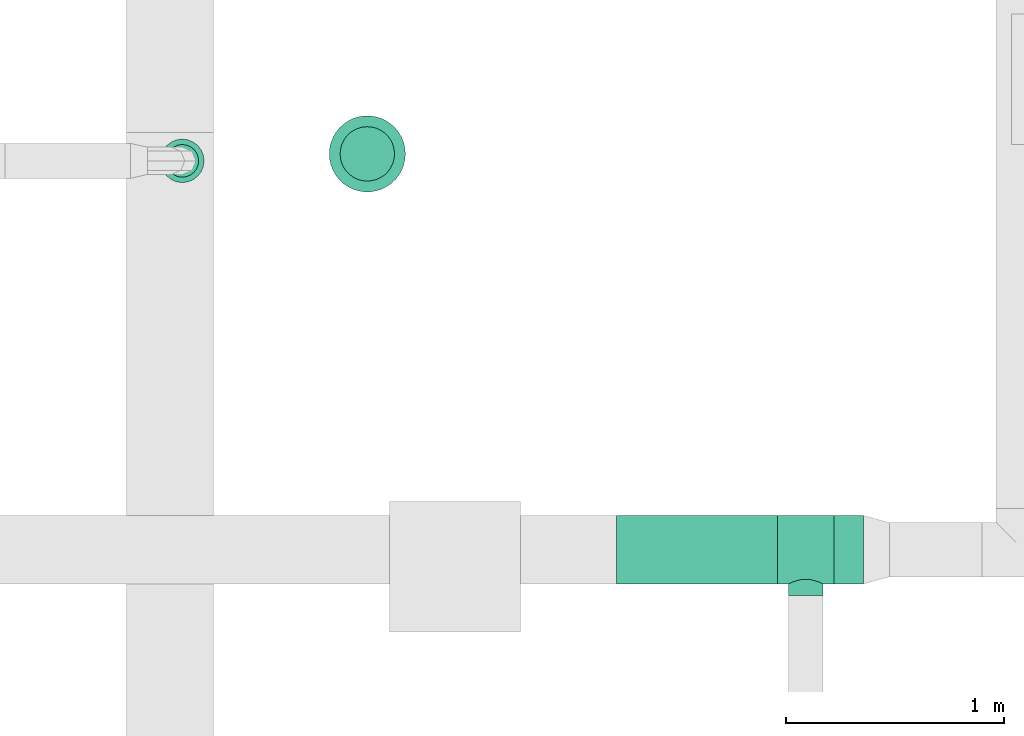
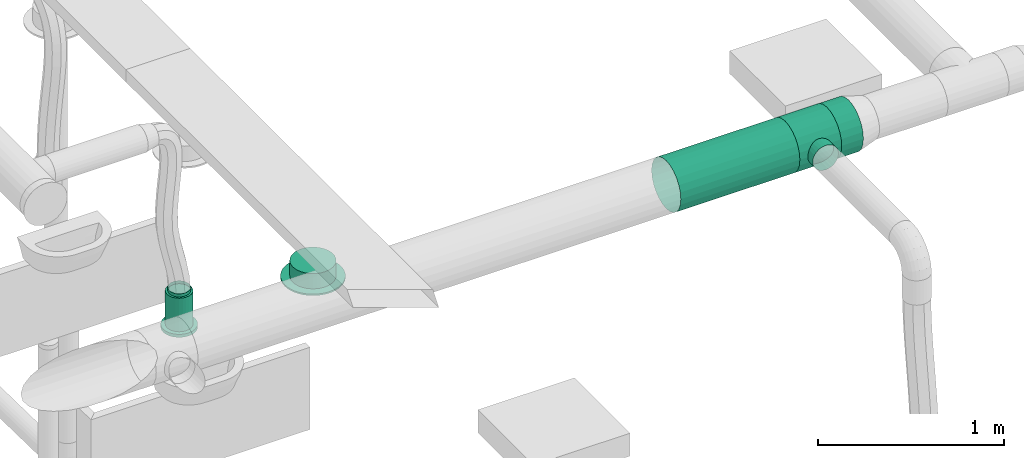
# One storey, part 98 of 374: 2 flow segments, 1 distribution element, 1 flow fitting, 1 flow terminal.
"""IFC2X3 building model written with IfcOpenShell, lengths in metres."""

from ifc_helpers import new_model, si_unit, direction, frame, frame_2d, origin, place, context, subcontext, project, spatial, circle, extrude, open_shell, surface_model, source, transform, mapped, element, save


model = new_model("IFC2X3")

# Units and contexts
model_context = context("Model", 3, precision=1e-05, world=origin(), true_north=direction((-0.4480736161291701, 0.8939966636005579)))
body_context = subcontext(model_context, "Body", "Model", "MODEL_VIEW")
ifc_project = project(units=[si_unit("LENGTHUNIT", "METRE"), si_unit("AREAUNIT", "SQUARE_METRE"), si_unit("VOLUMEUNIT", "CUBIC_METRE"), si_unit("PLANEANGLEUNIT", "RADIAN"), si_unit("THERMODYNAMICTEMPERATUREUNIT", "KELVIN"), si_unit("MASSUNIT", "GRAM", prefix="KILO"), si_unit("TIMEUNIT", "SECOND")], contexts=[model_context])

# Site, building, storey
site_placement = place(None, origin())
site = spatial("IfcSite", under=ifc_project, at=site_placement, Name="Site 1", CompositionType="ELEMENT")
building_placement = place(site_placement, origin())
building = spatial("IfcBuilding", under=site, at=building_placement, Name="Undefined", CompositionType="ELEMENT")
storey_placement = place(building_placement, origin())
storey = spatial("IfcBuildingStorey", under=building, at=storey_placement, Name="Rez de chauss\x8ee", CompositionType="ELEMENT", Elevation=0.0)

# Flow terminal
shared_shape_1 = source(origin(), body_context, "Body", "SurfaceModel", [
    surface_model("IfcFaceBasedSurfaceModel", [(0.0, 0.0, 0.0), (0.026105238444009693, 0.0, 7.105427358e-15), (0.026105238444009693, 0.020000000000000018, 7.105427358e-15), (3.552713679e-15, 0.020000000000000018, 0.0), (0.05132096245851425, 0.0, -0.00675653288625), (0.05132096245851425, 0.020000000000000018, -0.00675653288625), (0.07392876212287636, 0.0, -0.019809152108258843), (0.07392876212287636, 0.020000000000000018, -0.019809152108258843), (0.09238795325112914, 0.0, -0.03826834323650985), (0.09238795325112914, 0.020000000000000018, -0.03826834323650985), (0.10544057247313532, 0.0, -0.06087614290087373), (0.10544057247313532, 0.020000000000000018, -0.06087614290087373), (0.11219710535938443, 0.0, -0.08609186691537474), (0.11219710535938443, 0.020000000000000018, -0.08609186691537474), (0.11219710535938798, 0.0, -0.11219710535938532), (0.11219710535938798, 0.020000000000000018, -0.11219710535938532), (0.10544057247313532, 0.0, -0.13741282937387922), (0.10544057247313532, 0.020000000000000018, -0.13741282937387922), (0.09238795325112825, 0.0, -0.1600206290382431), (0.09238795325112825, 0.020000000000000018, -0.1600206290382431), (0.07392876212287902, 0.0, -0.1784798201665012), (0.07392876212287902, 0.020000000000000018, -0.1784798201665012), (0.05132096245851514, 0.0, -0.19153243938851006), (0.05132096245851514, 0.020000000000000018, -0.19153243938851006), (0.02610523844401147, 0.0, -0.19828897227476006), (0.02610523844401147, 0.020000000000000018, -0.19828897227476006), (0.0, -7.105427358e-15, -0.19828897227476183), (1.776356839e-15, 0.020000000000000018, -0.19828897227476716), (-0.02521572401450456, 0.0, -0.19153243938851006), (-0.02521572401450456, 0.020000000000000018, -0.19153243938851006), (-0.047823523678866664, 0.0, -0.1784798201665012), (-0.047823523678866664, 0.020000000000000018, -0.1784798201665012), (-0.06628271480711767, 0.0, -0.1600206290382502), (-0.06628271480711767, 0.020000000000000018, -0.1600206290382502), (-0.07933533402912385, 0.0, -0.13741282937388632), (-0.07933533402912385, 0.020000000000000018, -0.13741282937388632), (-0.08609186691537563, 0.0, -0.11219710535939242), (-0.08609186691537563, 0.020000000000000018, -0.11219710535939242), (-0.08609186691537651, 0.0, -0.08609186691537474), (-0.08609186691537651, 0.020000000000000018, -0.08609186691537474), (-0.07933533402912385, 0.0, -0.060876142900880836), (-0.07933533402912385, 0.020000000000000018, -0.060876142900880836), (-0.06628271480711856, 0.0, -0.038268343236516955), (-0.06628271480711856, 0.020000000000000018, -0.038268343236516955), (-0.04782352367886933, 0.0, -0.019809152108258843), (-0.04782352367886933, 0.020000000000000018, -0.019809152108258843), (-0.02521572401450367, 0.0, -0.00675653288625), (-0.02521572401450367, 0.020000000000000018, -0.00675653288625), (0.013052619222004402, 0.0, -0.09914448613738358), (0.013052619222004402, 0.020000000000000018, -0.09914448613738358), (0.003263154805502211, 0.020000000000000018, -0.02478612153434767), (0.022842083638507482, 0.020000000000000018, -0.024786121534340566), (0.022842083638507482, 0.2400000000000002, -0.024786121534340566), (0.0032631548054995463, 0.2400000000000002, -0.024786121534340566), (0.04175387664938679, 0.020000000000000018, -0.029853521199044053), (0.04175387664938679, 0.2400000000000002, -0.029853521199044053), (0.058709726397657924, 0.020000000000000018, -0.03964298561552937), (0.058709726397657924, 0.2400000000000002, -0.03964298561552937), (0.07255411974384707, 0.020000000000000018, -0.053487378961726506), (0.07255411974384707, 0.2400000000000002, -0.053487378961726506), (0.08234358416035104, 0.020000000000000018, -0.07044322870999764), (0.08234358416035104, 0.2400000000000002, -0.07044322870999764), (0.08741098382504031, 0.020000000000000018, -0.08935502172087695), (0.08741098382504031, 0.2400000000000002, -0.08935502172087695), (0.08741098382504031, 0.020000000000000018, -0.108933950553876), (0.08741098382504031, 0.2400000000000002, -0.108933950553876), (0.08234358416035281, 0.020000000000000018, -0.12784574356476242), (0.08234358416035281, 0.2400000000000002, -0.12784574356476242), (0.07255411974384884, 0.020000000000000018, -0.14480159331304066), (0.07255411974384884, 0.2400000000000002, -0.14480159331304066), (0.05870972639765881, 0.020000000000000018, -0.15864598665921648), (0.05870972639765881, 0.2400000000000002, -0.15864598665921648), (0.04175387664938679, 0.020000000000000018, -0.1684354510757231), (0.04175387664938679, 0.2400000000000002, -0.1684354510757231), (0.022842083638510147, 0.020000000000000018, -0.1735028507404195), (0.022842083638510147, 0.2400000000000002, -0.1735028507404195), (0.0032631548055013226, 0.020000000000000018, -0.1735028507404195), (0.0032631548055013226, 0.2400000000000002, -0.1735028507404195), (-0.015648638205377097, 0.020000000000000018, -0.168435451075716), (-0.015648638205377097, 0.2400000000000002, -0.168435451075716), (-0.032604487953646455, 0.020000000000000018, -0.1586459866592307), (-0.032604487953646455, 0.2400000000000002, -0.1586459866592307), (-0.0464488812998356, 0.020000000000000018, -0.14480159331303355), (-0.0464488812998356, 0.2400000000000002, -0.14480159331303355), (-0.05623834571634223, 0.020000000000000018, -0.1278457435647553), (-0.05623834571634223, 0.2400000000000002, -0.1278457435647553), (-0.06130574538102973, 0.020000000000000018, -0.10893395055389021), (-0.06130574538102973, 0.2400000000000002, -0.10893395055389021), (-0.06130574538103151, 0.020000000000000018, -0.08935502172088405), (-0.06130574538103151, 0.2400000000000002, -0.08935502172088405), (-0.05623834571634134, 0.020000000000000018, -0.07044322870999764), (-0.05623834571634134, 0.2400000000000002, -0.07044322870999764), (-0.046448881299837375, 0.020000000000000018, -0.0534873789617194), (-0.046448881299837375, 0.2400000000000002, -0.0534873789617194), (-0.03260448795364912, 0.020000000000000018, -0.03964298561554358), (-0.03260448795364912, 0.2400000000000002, -0.03964298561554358), (-0.015648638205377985, 0.020000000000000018, -0.029853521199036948), (-0.015648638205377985, 0.2400000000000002, -0.029853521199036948), (0.013052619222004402, 0.2400000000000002, -0.09914448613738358), (0.004894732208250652, 0.2400000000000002, -0.0371791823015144), (0.02121050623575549, 0.2400000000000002, -0.03717918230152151), (0.02121050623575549, 0.26000000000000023, -0.03717918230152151), (0.004894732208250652, 0.26000000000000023, -0.0371791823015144), (0.03697033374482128, 0.2400000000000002, -0.041402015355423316), (0.03697033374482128, 0.26000000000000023, -0.041402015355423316), (0.05110020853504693, 0.2400000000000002, -0.04955990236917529), (0.05110020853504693, 0.26000000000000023, -0.04955990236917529), (0.06263720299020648, 0.2400000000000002, -0.06109689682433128), (0.06263720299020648, 0.26000000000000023, -0.06109689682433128), (0.070795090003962, 0.2400000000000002, -0.0752267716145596), (0.070795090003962, 0.26000000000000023, -0.0752267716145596), (0.07501792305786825, 0.2400000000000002, -0.0909865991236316), (0.07501792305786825, 0.26000000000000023, -0.0909865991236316), (0.07501792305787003, 0.2400000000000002, -0.10730237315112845), (0.07501792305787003, 0.26000000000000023, -0.10730237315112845), (0.07079509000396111, 0.2400000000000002, -0.12306220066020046), (0.07079509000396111, 0.26000000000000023, -0.12306220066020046), (0.06263720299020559, 0.2400000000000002, -0.13719207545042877), (0.06263720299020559, 0.26000000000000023, -0.13719207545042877), (0.051100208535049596, 0.2400000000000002, -0.14872906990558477), (0.051100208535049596, 0.26000000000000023, -0.14872906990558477), (0.03697033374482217, 0.2400000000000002, -0.15688695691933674), (0.03697033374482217, 0.26000000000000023, -0.15688695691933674), (0.02121050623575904, 0.2400000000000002, -0.16110978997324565), (0.02121050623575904, 0.26000000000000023, -0.16110978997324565), (0.004894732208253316, 0.2400000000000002, -0.16110978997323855), (0.004894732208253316, 0.26000000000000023, -0.16110978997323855), (-0.010865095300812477, 0.2400000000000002, -0.15688695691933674), (-0.010865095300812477, 0.26000000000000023, -0.15688695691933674), (-0.02499497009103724, 0.2400000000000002, -0.14872906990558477), (-0.02499497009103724, 0.26000000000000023, -0.14872906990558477), (-0.03653196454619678, 0.2400000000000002, -0.13719207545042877), (-0.03653196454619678, 0.26000000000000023, -0.13719207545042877), (-0.04468985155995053, 0.2400000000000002, -0.12306220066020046), (-0.04468985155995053, 0.26000000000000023, -0.12306220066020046), (-0.04891268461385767, 0.2400000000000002, -0.10730237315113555), (-0.04891268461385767, 0.26000000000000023, -0.10730237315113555), (-0.04891268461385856, 0.2400000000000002, -0.0909865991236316), (-0.04891268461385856, 0.26000000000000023, -0.0909865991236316), (-0.04468985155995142, 0.2400000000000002, -0.0752267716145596), (-0.04468985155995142, 0.26000000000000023, -0.0752267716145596), (-0.036531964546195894, 0.2400000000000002, -0.06109689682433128), (-0.036531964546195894, 0.26000000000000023, -0.06109689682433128), (-0.02499497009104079, 0.2400000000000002, -0.04955990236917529), (-0.02499497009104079, 0.26000000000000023, -0.04955990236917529), (-0.010865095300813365, 0.2400000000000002, -0.041402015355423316), (-0.010865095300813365, 0.26000000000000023, -0.041402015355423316)], [open_shell([[[0, 1, 2, 3]], [[1, 4, 5, 2]], [[4, 6, 7, 5]], [[6, 8, 9, 7]], [[8, 10, 11, 9]], [[10, 12, 13, 11]], [[12, 14, 15, 13]], [[14, 16, 17, 15]], [[16, 18, 19, 17]], [[18, 20, 21, 19]], [[20, 22, 23, 21]], [[22, 24, 25, 23]], [[24, 26, 27, 25]], [[26, 28, 29, 27]], [[28, 30, 31, 29]], [[30, 32, 33, 31]], [[32, 34, 35, 33]], [[34, 36, 37, 35]], [[36, 38, 39, 37]], [[38, 40, 41, 39]], [[40, 42, 43, 41]], [[42, 44, 45, 43]], [[44, 46, 47, 45]], [[46, 0, 3, 47]], [[48, 1, 0]], [[48, 4, 1]], [[48, 6, 4]], [[48, 8, 6]], [[48, 10, 8]], [[48, 12, 10]], [[48, 14, 12]], [[48, 16, 14]], [[48, 18, 16]], [[48, 20, 18]], [[48, 22, 20]], [[48, 24, 22]], [[48, 26, 24]], [[48, 28, 26]], [[48, 30, 28]], [[48, 32, 30]], [[48, 34, 32]], [[48, 36, 34]], [[48, 38, 36]], [[48, 40, 38]], [[48, 42, 40]], [[48, 44, 42]], [[48, 46, 44]], [[48, 0, 46]], [[49, 47, 3]], [[49, 45, 47]], [[49, 43, 45]], [[49, 41, 43]], [[49, 39, 41]], [[49, 37, 39]], [[49, 35, 37]], [[49, 33, 35]], [[49, 31, 33]], [[49, 29, 31]], [[49, 27, 29]], [[49, 25, 27]], [[49, 23, 25]], [[49, 21, 23]], [[49, 19, 21]], [[49, 17, 19]], [[49, 15, 17]], [[49, 13, 15]], [[49, 11, 13]], [[49, 9, 11]], [[49, 7, 9]], [[49, 5, 7]], [[49, 2, 5]], [[49, 3, 2]], [[50, 51, 52, 53]], [[51, 54, 55, 52]], [[54, 56, 57, 55]], [[56, 58, 59, 57]], [[58, 60, 61, 59]], [[60, 62, 63, 61]], [[62, 64, 65, 63]], [[64, 66, 67, 65]], [[66, 68, 69, 67]], [[68, 70, 71, 69]], [[70, 72, 73, 71]], [[72, 74, 75, 73]], [[74, 76, 77, 75]], [[76, 78, 79, 77]], [[78, 80, 81, 79]], [[80, 82, 83, 81]], [[82, 84, 85, 83]], [[84, 86, 87, 85]], [[86, 88, 89, 87]], [[88, 90, 91, 89]], [[90, 92, 93, 91]], [[92, 94, 95, 93]], [[94, 96, 97, 95]], [[96, 50, 53, 97]], [[49, 51, 50]], [[49, 54, 51]], [[49, 56, 54]], [[49, 58, 56]], [[49, 60, 58]], [[49, 62, 60]], [[49, 64, 62]], [[49, 66, 64]], [[49, 68, 66]], [[49, 70, 68]], [[49, 72, 70]], [[49, 74, 72]], [[49, 76, 74]], [[49, 78, 76]], [[49, 80, 78]], [[49, 82, 80]], [[49, 84, 82]], [[49, 86, 84]], [[49, 88, 86]], [[49, 90, 88]], [[49, 92, 90]], [[49, 94, 92]], [[49, 96, 94]], [[49, 50, 96]], [[98, 97, 53]], [[98, 95, 97]], [[98, 93, 95]], [[98, 91, 93]], [[98, 89, 91]], [[98, 87, 89]], [[98, 85, 87]], [[98, 83, 85]], [[98, 81, 83]], [[98, 79, 81]], [[98, 77, 79]], [[98, 75, 77]], [[98, 73, 75]], [[98, 71, 73]], [[98, 69, 71]], [[98, 67, 69]], [[98, 65, 67]], [[98, 63, 65]], [[98, 61, 63]], [[98, 59, 61]], [[98, 57, 59]], [[98, 55, 57]], [[98, 52, 55]], [[98, 53, 52]], [[99, 100, 101, 102]], [[100, 103, 104, 101]], [[103, 105, 106, 104]], [[105, 107, 108, 106]], [[107, 109, 110, 108]], [[109, 111, 112, 110]], [[111, 113, 114, 112]], [[113, 115, 116, 114]], [[115, 117, 118, 116]], [[117, 119, 120, 118]], [[119, 121, 122, 120]], [[121, 123, 124, 122]], [[123, 125, 126, 124]], [[125, 127, 128, 126]], [[127, 129, 130, 128]], [[129, 131, 132, 130]], [[131, 133, 134, 132]], [[133, 135, 136, 134]], [[135, 137, 138, 136]], [[137, 139, 140, 138]], [[139, 141, 142, 140]], [[141, 143, 144, 142]], [[143, 145, 146, 144]], [[145, 99, 102, 146]]])]),
])
flow_terminal_placement = place(storey_placement, origin())
element("IfcFlowTerminal", 1, at=flow_terminal_placement, inside=storey, Name="Air diffuseur - bouche", ObjectType="Air diffuseur - bouche", context=body_context, shape_type="MappedRepresentation", body=[
    mapped(shared_shape_1, transform((57.32499999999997, 10.012233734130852, 2.48), x_axis=(0.13052619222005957, -0.9914448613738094, 0.0), y_axis=(0.0, 0.0, 1.0), z_axis=(-0.9914448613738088, -0.13052619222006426, 0.0))),
])

# Flow fitting
shared_shape_2 = source(origin(), body_context, "Body", "SurfaceModel", [
    surface_model("IfcFaceBasedSurfaceModel", [(0.0, 0.04111575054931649, 0.0), (0.0, 0.0, 0.0), (0.2599999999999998, -7.105427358e-15, 0.0), (0.259999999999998, 0.041115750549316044, 0.0), (0.0, -0.03971476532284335, -0.010641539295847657), (0.259999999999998, -0.03971476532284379, -0.010641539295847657), (0.0, -0.0753220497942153, -0.0311994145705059), (0.259999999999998, -0.07532204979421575, -0.0311994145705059), (0.0, -0.10439527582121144, -0.060272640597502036), (0.259999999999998, -0.10439527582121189, -0.060272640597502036), (0.0, -0.12495315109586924, -0.09587992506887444), (0.259999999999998, -0.12495315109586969, -0.09587992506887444), (0.0, -0.13559469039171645, -0.13559469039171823), (0.259999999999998, -0.1355946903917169, -0.13559469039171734), (0.0, -0.135594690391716, -0.17671044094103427), (0.259999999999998, -0.13559469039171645, -0.1767104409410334), (0.0, -0.1249531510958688, -0.21642520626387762), (0.259999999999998, -0.12495315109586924, -0.21642520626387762), (0.0, -0.10439527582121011, -0.2520324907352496), (0.259999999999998, -0.10439527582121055, -0.2520324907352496), (0.0, -0.07532204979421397, -0.2811057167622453), (0.259999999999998, -0.07532204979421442, -0.2811057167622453), (0.0, -0.039714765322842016, -0.3016635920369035), (0.259999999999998, -0.03971476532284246, -0.3016635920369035), (0.0, 1.776356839e-15, -0.3123051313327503), (0.259999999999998, 1.33226763e-15, -0.3123051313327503), (0.0, 0.041115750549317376, -0.31230513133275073), (0.259999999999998, 0.04111575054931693, -0.31230513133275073), (0.0, 0.08083051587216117, -0.30166359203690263), (0.259999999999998, 0.08083051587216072, -0.30166359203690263), (0.0, 0.11643780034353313, -0.28110571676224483), (0.259999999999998, 0.11643780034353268, -0.28110571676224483), (0.0, 0.14551102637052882, -0.25203249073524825), (0.259999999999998, 0.14551102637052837, -0.25203249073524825), (0.0, 0.16606890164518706, -0.2164252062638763), (0.259999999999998, 0.16606890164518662, -0.21642520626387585), (0.0, 0.17671044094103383, -0.1767104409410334), (0.259999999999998, 0.1767104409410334, -0.1767104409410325), (0.0, 0.17671044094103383, -0.1355946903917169), (0.259999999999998, 0.1767104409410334, -0.13559469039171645), (0.0, 0.16606890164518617, -0.09587992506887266), (0.259999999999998, 0.16606890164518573, -0.09587992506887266), (0.0, 0.14551102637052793, -0.06027264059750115), (0.259999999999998, 0.14551102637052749, -0.06027264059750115), (0.0, 0.1164378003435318, -0.031199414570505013), (0.259999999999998, 0.11643780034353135, -0.031199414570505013), (0.0, 0.08083051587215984, -0.010641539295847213), (0.259999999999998, 0.08083051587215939, -0.010641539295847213), (0.21000000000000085, 0.1767104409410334, -0.1767104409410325), (0.2072740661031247, 0.1726525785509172, -0.19706040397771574), (0.2072740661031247, 0.22605868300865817, -0.20409145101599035), (0.21000000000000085, 0.22876129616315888, -0.18356306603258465), (0.19928203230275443, 0.16636954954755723, -0.21569419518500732), (0.19928203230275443, 0.22354024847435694, -0.2232208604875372), (0.18656854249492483, 0.15890731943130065, -0.2314232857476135), (0.18656854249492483, 0.22137761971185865, -0.23964765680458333), (0.1699999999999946, 0.15174813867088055, -0.2433039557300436), (0.1699999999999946, 0.21971817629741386, -0.2522523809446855), (0.15070552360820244, 0.14653802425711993, -0.25067902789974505), (0.15070552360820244, 0.21867500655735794, -0.2601760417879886), (0.12999999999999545, 0.14462474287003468, -0.25317659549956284), (0.12999999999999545, 0.218319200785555, -0.26287865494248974), (0.10929447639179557, 0.14653802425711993, -0.25067902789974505), (0.10929447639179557, 0.21867500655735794, -0.2601760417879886), (0.0899999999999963, 0.15174813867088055, -0.2433039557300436), (0.0899999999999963, 0.21971817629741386, -0.2522523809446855), (0.07343145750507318, 0.15890731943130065, -0.2314232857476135), (0.07343145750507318, 0.22137761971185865, -0.23964765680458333), (0.06071796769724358, 0.16636954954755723, -0.21569419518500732), (0.06071796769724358, 0.22354024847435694, -0.2232208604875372), (0.0527259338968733, 0.1726525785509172, -0.19706040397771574), (0.0527259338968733, 0.22605868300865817, -0.20409145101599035), (0.04999999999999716, 0.1767104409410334, -0.1767104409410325), (0.04999999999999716, 0.22876129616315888, -0.18356306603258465), (0.0527259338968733, 0.17805780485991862, -0.15600363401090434), (0.0527259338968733, 0.2314639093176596, -0.16303468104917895), (0.06071796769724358, 0.1768116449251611, -0.13637860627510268), (0.06071796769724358, 0.23398234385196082, -0.14390527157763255), (0.07343145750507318, 0.1736746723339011, -0.11925410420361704), (0.07343145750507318, 0.2361449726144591, -0.12747847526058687), (0.0899999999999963, 0.1698343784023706, -0.10592532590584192), (0.0899999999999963, 0.2378044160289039, -0.11487375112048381), (0.10929447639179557, 0.16671060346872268, -0.09745307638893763), (0.10929447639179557, 0.23884758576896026, -0.10695009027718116), (0.12999999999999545, 0.16550893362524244, -0.09454541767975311), (0.12999999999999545, 0.23920339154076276, -0.10424747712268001), (0.15070552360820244, 0.16671060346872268, -0.09745307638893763), (0.15070552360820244, 0.23884758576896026, -0.10695009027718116), (0.1699999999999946, 0.1698343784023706, -0.10592532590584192), (0.1699999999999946, 0.2378044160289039, -0.11487375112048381), (0.18656854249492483, 0.1736746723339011, -0.11925410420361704), (0.18656854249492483, 0.2361449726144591, -0.12747847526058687), (0.19928203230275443, 0.1768116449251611, -0.13637860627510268), (0.19928203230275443, 0.23398234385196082, -0.14390527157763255), (0.2072740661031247, 0.17805780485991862, -0.15600363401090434), (0.2072740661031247, 0.2314639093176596, -0.16303468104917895)], [open_shell([[[0, 1, 2, 3]], [[1, 4, 5, 2]], [[4, 6, 7, 5]], [[6, 8, 9, 7]], [[8, 10, 11, 9]], [[10, 12, 13, 11]], [[12, 14, 15, 13]], [[14, 16, 17, 15]], [[16, 18, 19, 17]], [[18, 20, 21, 19]], [[20, 22, 23, 21]], [[22, 24, 25, 23]], [[24, 26, 27, 25]], [[26, 28, 29, 27]], [[28, 30, 31, 29]], [[30, 32, 33, 31]], [[32, 34, 35, 33]], [[34, 36, 37, 35]], [[36, 38, 39, 37]], [[38, 40, 41, 39]], [[40, 42, 43, 41]], [[42, 44, 45, 43]], [[44, 46, 47, 45]], [[46, 0, 3, 47]], [[48, 49, 50, 51]], [[49, 52, 53, 50]], [[52, 54, 55, 53]], [[54, 56, 57, 55]], [[56, 58, 59, 57]], [[58, 60, 61, 59]], [[60, 62, 63, 61]], [[62, 64, 65, 63]], [[64, 66, 67, 65]], [[66, 68, 69, 67]], [[68, 70, 71, 69]], [[70, 72, 73, 71]], [[72, 74, 75, 73]], [[74, 76, 77, 75]], [[76, 78, 79, 77]], [[78, 80, 81, 79]], [[80, 82, 83, 81]], [[82, 84, 85, 83]], [[84, 86, 87, 85]], [[86, 88, 89, 87]], [[88, 90, 91, 89]], [[90, 92, 93, 91]], [[92, 94, 95, 93]], [[94, 48, 51, 95]]])]),
])
flow_fitting_placement = place(storey_placement, origin())
element("IfcFlowFitting", 2, at=flow_fitting_placement, inside=storey, Name="Pièce en té 90°", ObjectType="Pièce en té 90°", context=body_context, shape_type="MappedRepresentation", body=[
    mapped(shared_shape_2, transform((60.4200038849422, 8.265763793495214, 3.952133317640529), x_axis=(-1.0, 0.0, 0.0), y_axis=(7.266545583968e-12, -0.9914448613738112, 0.13052619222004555), z_axis=(0.0, 0.13052619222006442, 0.9914448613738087))),
])

# Flow segments
shared_shape_3 = source(origin(), body_context, "Body", "SurfaceModel", [
    surface_model("IfcFaceBasedSurfaceModel", [(0.0, 0.04111575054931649, 0.0), (0.0, 0.0, 0.0), (0.7400000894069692, 4.4408921e-16, 0.0), (0.7400000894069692, 0.04111575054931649, -4.4408921e-16), (0.0, -0.03971476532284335, -0.010641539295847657), (0.7400000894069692, -0.03971476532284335, -0.010641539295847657), (0.0, -0.0753220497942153, -0.0311994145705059), (0.7400000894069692, -0.0753220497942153, -0.0311994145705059), (0.0, -0.10439527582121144, -0.060272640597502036), (0.7400000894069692, -0.10439527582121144, -0.060272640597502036), (0.0, -0.12495315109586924, -0.09587992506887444), (0.7400000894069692, -0.12495315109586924, -0.09587992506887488), (0.0, -0.13559469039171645, -0.13559469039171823), (0.7400000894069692, -0.13559469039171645, -0.13559469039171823), (0.0, -0.135594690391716, -0.17671044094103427), (0.7400000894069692, -0.13559469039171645, -0.17671044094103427), (0.0, -0.1249531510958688, -0.21642520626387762), (0.7400000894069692, -0.1249531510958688, -0.21642520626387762), (0.0, -0.10439527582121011, -0.2520324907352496), (0.7400000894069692, -0.10439527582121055, -0.2520324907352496), (0.0, -0.07532204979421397, -0.2811057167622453), (0.7400000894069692, -0.07532204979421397, -0.2811057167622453), (0.0, -0.039714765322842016, -0.3016635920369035), (0.7400000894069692, -0.039714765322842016, -0.3016635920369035), (0.0, 1.776356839e-15, -0.3123051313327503), (0.7400000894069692, 1.776356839e-15, -0.31230513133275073), (0.0, 0.041115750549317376, -0.31230513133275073), (0.7400000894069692, 0.041115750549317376, -0.31230513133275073), (0.0, 0.08083051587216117, -0.30166359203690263), (0.7400000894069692, 0.08083051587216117, -0.30166359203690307), (0.0, 0.11643780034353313, -0.28110571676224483), (0.7400000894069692, 0.11643780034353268, -0.28110571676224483), (0.0, 0.14551102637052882, -0.25203249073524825), (0.7400000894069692, 0.14551102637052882, -0.25203249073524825), (0.0, 0.16606890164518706, -0.2164252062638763), (0.7400000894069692, 0.16606890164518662, -0.2164252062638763), (0.0, 0.17671044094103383, -0.1767104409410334), (0.7400000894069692, 0.17671044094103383, -0.1767104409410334), (0.0, 0.17671044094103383, -0.1355946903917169), (0.7400000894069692, 0.17671044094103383, -0.1355946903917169), (0.0, 0.16606890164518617, -0.09587992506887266), (0.7400000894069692, 0.16606890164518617, -0.09587992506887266), (0.0, 0.14551102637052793, -0.06027264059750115), (0.7400000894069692, 0.14551102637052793, -0.06027264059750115), (0.0, 0.1164378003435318, -0.031199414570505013), (0.7400000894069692, 0.1164378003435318, -0.031199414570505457), (0.0, 0.08083051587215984, -0.010641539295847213), (0.7400000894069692, 0.08083051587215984, -0.010641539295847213)], [open_shell([[[0, 1, 2, 3]], [[1, 4, 5, 2]], [[4, 6, 7, 5]], [[6, 8, 9, 7]], [[8, 10, 11, 9]], [[10, 12, 13, 11]], [[12, 14, 15, 13]], [[14, 16, 17, 15]], [[16, 18, 19, 17]], [[18, 20, 21, 19]], [[20, 22, 23, 21]], [[22, 24, 25, 23]], [[24, 26, 27, 25]], [[26, 28, 29, 27]], [[28, 30, 31, 29]], [[30, 32, 33, 31]], [[32, 34, 35, 33]], [[34, 36, 37, 35]], [[36, 38, 39, 37]], [[38, 40, 41, 39]], [[40, 42, 43, 41]], [[42, 44, 45, 43]], [[44, 46, 47, 45]], [[46, 0, 3, 47]]])]),
])
flow_segment_1_placement = place(storey_placement, origin())
element("IfcFlowSegment", 3, at=flow_segment_1_placement, inside=storey, Name="Tube", ObjectType="Tube", context=body_context, shape_type="MappedRepresentation", body=[
    mapped(shared_shape_3, transform((59.42000379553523, 8.18423579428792, 3.952133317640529), x_axis=(1.0, 0.0, 0.0), y_axis=(0.0, 0.9914448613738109, 0.1305261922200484), z_axis=(0.0, -0.1305261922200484, 0.9914448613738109))),
])
shared_shape_4 = source(origin(), body_context, "Body", "SurfaceModel", [
    surface_model("IfcFaceBasedSurfaceModel", [(0.0, 0.04111575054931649, 0.0), (0.0, 0.0, 0.0), (0.13500000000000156, -7.105427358e-15, 8.8817842e-16), (0.1349999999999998, 0.041115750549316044, -4.4408921e-16), (0.0, -0.03971476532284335, -0.010641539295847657), (0.1349999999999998, -0.03971476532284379, -0.010641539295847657), (0.0, -0.0753220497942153, -0.0311994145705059), (0.1349999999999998, -0.0753220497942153, -0.0311994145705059), (0.0, -0.10439527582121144, -0.060272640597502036), (0.1349999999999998, -0.10439527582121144, -0.060272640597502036), (0.0, -0.12495315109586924, -0.09587992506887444), (0.1349999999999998, -0.12495315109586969, -0.095879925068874), (0.0, -0.13559469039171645, -0.13559469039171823), (0.1349999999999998, -0.13559469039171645, -0.1355946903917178), (0.0, -0.135594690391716, -0.17671044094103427), (0.1349999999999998, -0.1355946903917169, -0.1767104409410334), (0.0, -0.1249531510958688, -0.21642520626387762), (0.1349999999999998, -0.12495315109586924, -0.21642520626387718), (0.0, -0.10439527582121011, -0.2520324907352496), (0.1349999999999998, -0.104395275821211, -0.25203249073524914), (0.0, -0.07532204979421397, -0.2811057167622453), (0.1349999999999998, -0.07532204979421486, -0.28110571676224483), (0.0, -0.039714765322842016, -0.3016635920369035), (0.1349999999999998, -0.03971476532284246, -0.30166359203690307), (0.0, 1.776356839e-15, -0.3123051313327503), (0.1349999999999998, 4.4408921e-16, -0.31230513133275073), (0.0, 0.041115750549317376, -0.31230513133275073), (0.1349999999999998, 0.04111575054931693, -0.3123051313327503), (0.0, 0.08083051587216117, -0.30166359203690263), (0.1349999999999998, 0.08083051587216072, -0.30166359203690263), (0.0, 0.11643780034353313, -0.28110571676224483), (0.1349999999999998, 0.11643780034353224, -0.2811057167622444), (0.0, 0.14551102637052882, -0.25203249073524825), (0.1349999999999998, 0.14551102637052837, -0.25203249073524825), (0.0, 0.16606890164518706, -0.2164252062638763), (0.1349999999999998, 0.16606890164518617, -0.2164252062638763), (0.0, 0.17671044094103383, -0.1767104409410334), (0.1349999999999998, 0.17671044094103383, -0.17671044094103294), (0.0, 0.17671044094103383, -0.1355946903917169), (0.1349999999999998, 0.1767104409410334, -0.1355946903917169), (0.0, 0.16606890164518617, -0.09587992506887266), (0.1349999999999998, 0.16606890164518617, -0.0958799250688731), (0.0, 0.14551102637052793, -0.06027264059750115), (0.1349999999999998, 0.14551102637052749, -0.06027264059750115), (0.0, 0.1164378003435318, -0.031199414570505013), (0.1349999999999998, 0.1164378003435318, -0.031199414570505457), (0.0, 0.08083051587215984, -0.010641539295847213), (0.1349999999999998, 0.08083051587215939, -0.010641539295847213)], [open_shell([[[0, 1, 2, 3]], [[1, 4, 5, 2]], [[4, 6, 7, 5]], [[6, 8, 9, 7]], [[8, 10, 11, 9]], [[10, 12, 13, 11]], [[12, 14, 15, 13]], [[14, 16, 17, 15]], [[16, 18, 19, 17]], [[18, 20, 21, 19]], [[20, 22, 23, 21]], [[22, 24, 25, 23]], [[24, 26, 27, 25]], [[26, 28, 29, 27]], [[28, 30, 31, 29]], [[30, 32, 33, 31]], [[32, 34, 35, 33]], [[34, 36, 37, 35]], [[36, 38, 39, 37]], [[38, 40, 41, 39]], [[40, 42, 43, 41]], [[42, 44, 45, 43]], [[44, 46, 47, 45]], [[46, 0, 3, 47]]])]),
])
flow_segment_2_placement = place(storey_placement, origin())
element("IfcFlowSegment", 4, at=flow_segment_2_placement, inside=storey, Name="Manchon", ObjectType="Manchon", context=body_context, shape_type="MappedRepresentation", body=[
    mapped(shared_shape_4, transform((60.4200038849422, 8.18423579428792, 3.952133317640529), x_axis=(1.0, 0.0, 0.0), y_axis=(0.0, 0.9914448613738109, 0.1305261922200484), z_axis=(0.0, -0.1305261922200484, 0.9914448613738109))),
])

# Distribution element
distribution_element_placement = place(storey_placement, origin())
element("IfcDistributionElement", 5, at=distribution_element_placement, inside=storey, Name="Einbau-Downlight, 1-flammig", ObjectType="Einbau-Downlight, 1-flammig", context=body_context, shape_type="SweptSolid", body=[
    extrude(circle(Radius=0.17500000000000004, at=frame_2d((3.552713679e-15, 0.0), x_axis=(1.0, 0.0))), frame((58.275081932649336, 10.044234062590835, 2.5), z_axis=(0.0, 0.0, -1.0), x_axis=(1.0, 0.0, 0.0)), (0.0, 0.0, 1.0), 0.01),
    extrude(circle(Radius=0.125, at=frame_2d((3.552713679e-15, 0.0), x_axis=(1.0, 0.0))), frame((58.275081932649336, 10.044234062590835, 2.6000000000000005), z_axis=(0.0, 0.0, -1.0), x_axis=(1.0, 0.0, 0.0)), (0.0, 0.0, 1.0), 0.10000000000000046),
])

save(model, "model.ifc")
